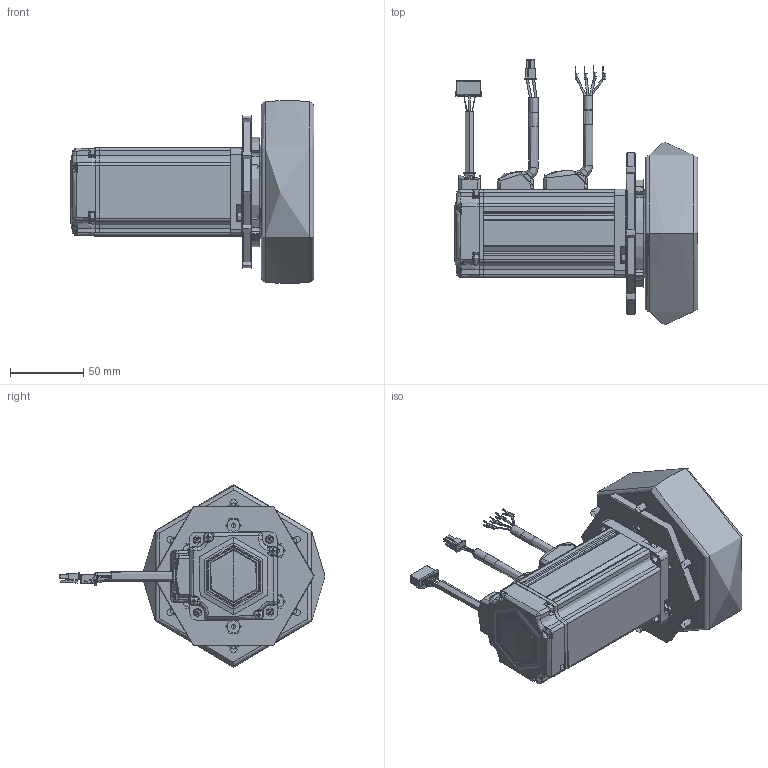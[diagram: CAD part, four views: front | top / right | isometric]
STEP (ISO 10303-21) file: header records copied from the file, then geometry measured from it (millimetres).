
FILE_DESCRIPTION((''),'2;1');
FILE_NAME('MSD125--020-30GSL-B_ASM','2026-05-21T14:33:00',('MS28159'),(''),'CREO PARAMETRIC BY PTC INC, 2018100','CREO PARAMETRIC BY PTC INC, 2018100','');
FILE_SCHEMA(('CONFIG_CONTROL_DESIGN'));
Products named in the file (17): M5-10-6-SOLID10001_1_1; M5-10-3-SOLID10001_1_1; 0226-1-1-SOLID1000_1_1; NONE_1_1_1; M5-10-2-SOLID10001_1_1; M5-10-5-SOLID10001_1_1; M5-10-1-SOLID10001_1_1; M5-10-4-SOLID10001_1_1; 125_X2_8F6E5F84_X0_-9_X2_6BD4_1_ASM; 1_100_1_1; __3_10001_1_1; 3698201102333_80SV__X2_530580_2_ASM; ASM0006_ASM_1_ASM_1_ASM; AEQ092-09-8_43_ASM_1_ASM_1_ASM; MSD125--020-30GL-0001_ASM_1_ASM; SM0601-SL-KCY-BNV; MSD125--020-30GSL-B_ASM
Assembly tree (16 placements, depth 6):
  MSD125--020-30GSL-B_ASM
    MSD125--020-30GL-0001_ASM_1_ASM
      AEQ092-09-8_43_ASM_1_ASM_1_ASM
        125_X2_8F6E5F84_X0_-9_X2_6BD4_1_ASM
          M5-10-6-SOLID10001_1_1
          M5-10-3-SOLID10001_1_1
          0226-1-1-SOLID1000_1_1
          NONE_1_1_1
          M5-10-2-SOLID10001_1_1
          M5-10-5-SOLID10001_1_1
          M5-10-1-SOLID10001_1_1
          M5-10-4-SOLID10001_1_1
        ASM0006_ASM_1_ASM_1_ASM
          3698201102333_80SV__X2_530580_2_ASM
            1_100_1_1
            __3_10001_1_1
    SM0601-SL-KCY-BNV
Bounding box: 166.3 x 181.44 x 124.79 mm (x, y, z)
Topology: 10 solids, 86 shells, 4280 faces, 11020 edges, 6910 vertices
Faces by surface type: plane 1609, cylinder 1247, cone 478, torus 339, bspline 265, extrusion 189, sphere 153
Full cylindrical faces by diameter (mm): 2.551 x3
Entity records: 222873 total; most frequent: CARTESIAN_POINT 120114, ORIENTED_EDGE 21644, DIRECTION 20827, EDGE_CURVE 10826, AXIS2_PLACEMENT_3D 7748, VERTEX_POINT 6913, VECTOR 5331, LINE 5142
